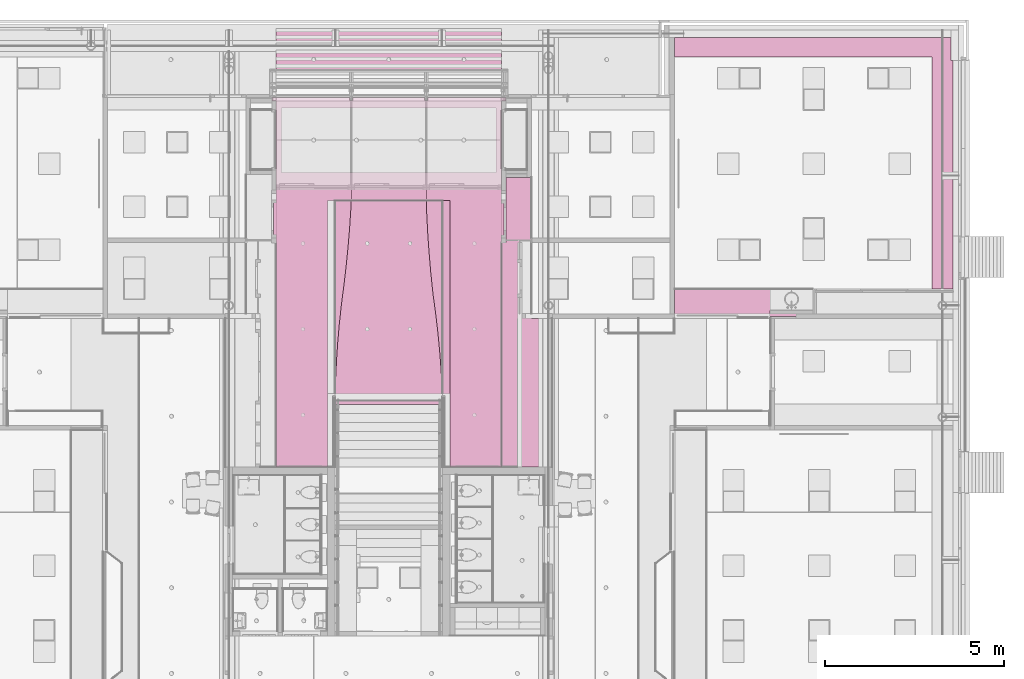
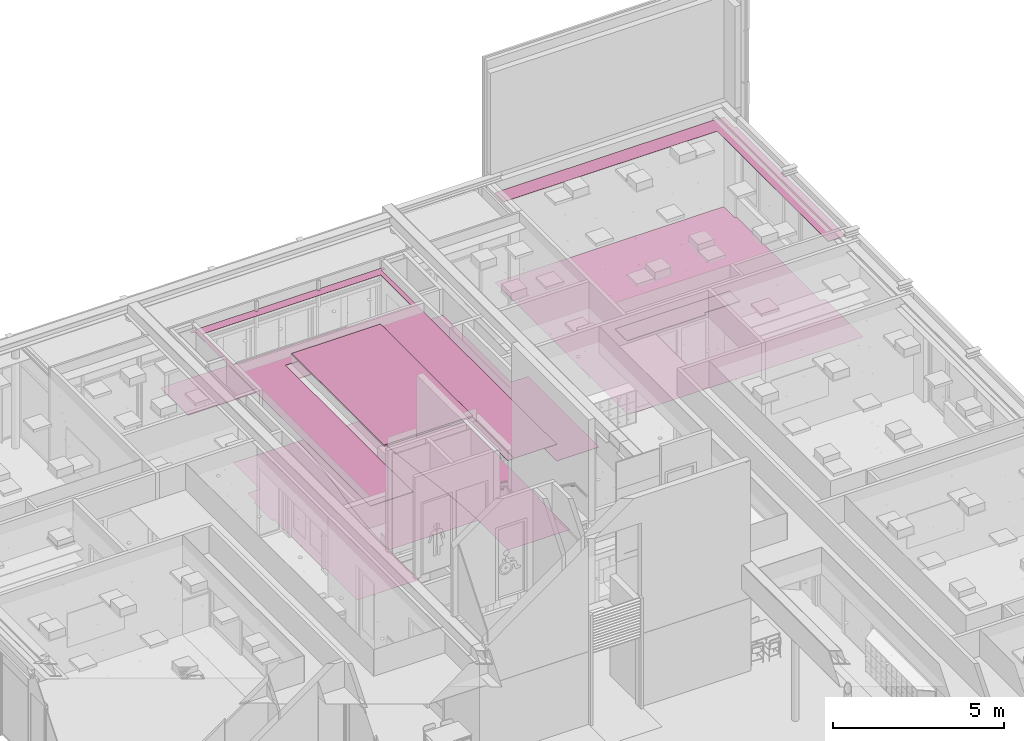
# One storey, part 327 of 347: 11 furnishings.
"""IFC2X3 building model written with IfcOpenShell, lengths in millimetres."""

from ifc_helpers import new_model, entity, si_unit, converted_unit, derived_unit, money_unit, direction, frame, origin_with_axes, place, context, subcontext, project, spatial, faceted_brep, material, type_object, element, save


model = new_model("IFC2X3")

# Units and contexts
model_context = context("Model", 3, precision=0.01, world=origin_with_axes(), true_north=direction((0.0, 1.0)))
plan_context = context("Plan", 3, precision=0.01, world=origin_with_axes(), true_north=direction((0.0, 1.0)))
body_context = subcontext(model_context, "Body", "Model", "MODEL_VIEW")
ifc_project = project(units=[si_unit("LENGTHUNIT", "METRE", prefix="MILLI"), si_unit("AREAUNIT", "SQUARE_METRE"), si_unit("VOLUMEUNIT", "CUBIC_METRE"), converted_unit("PLANEANGLEUNIT", "DEGREE", entity("IfcPlaneAngleMeasure", 0.0174532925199), si_unit("PLANEANGLEUNIT", "RADIAN"), dimensions=[0, 0, 0, 0, 0, 0, 0]), money_unit("EUR"), converted_unit("TIMEUNIT", "Year", entity("IfcTimeMeasure", 31556926.0), si_unit("TIMEUNIT", "SECOND"), dimensions=[0, 0, 1, 0, 0, 0, 0]), si_unit("MASSUNIT", "GRAM", prefix="KILO"), si_unit("THERMODYNAMICTEMPERATUREUNIT", "DEGREE_CELSIUS"), si_unit("LUMINOUSINTENSITYUNIT", "LUMEN"), si_unit("ENERGYUNIT", "JOULE", prefix="MEGA"), derived_unit("THERMALCONDUCTANCEUNIT", [(si_unit("POWERUNIT", "WATT"), 1), (si_unit("LENGTHUNIT", "METRE"), -1), (si_unit("THERMODYNAMICTEMPERATUREUNIT", "KELVIN"), -1)]), derived_unit("SPECIFICHEATCAPACITYUNIT", [(si_unit("ENERGYUNIT", "JOULE"), 1), (si_unit("MASSUNIT", "GRAM", prefix="KILO"), -1), (si_unit("THERMODYNAMICTEMPERATUREUNIT", "KELVIN"), -1)]), derived_unit("MASSDENSITYUNIT", [(si_unit("MASSUNIT", "GRAM", prefix="KILO"), 1), (si_unit("VOLUMEUNIT", "CUBIC_METRE"), -1)])], contexts=[model_context, plan_context])

# Site, building, storey
site_placement = place(None, origin_with_axes())
site = spatial("IfcSite", under=ifc_project, at=site_placement, Name="Site", CompositionType="ELEMENT")
building_placement = place(site_placement, origin_with_axes())
building = spatial("IfcBuilding", under=site, at=building_placement, Name="Naam gebouw", CompositionType="ELEMENT")
storey_placement = place(building_placement, origin_with_axes())
storey = spatial("IfcBuildingStorey", under=building, at=storey_placement, Name="begane grond", CompositionType="ELEMENT", Elevation=0.0)

# Furnishings
ifc_material_1 = material(Name="ALG - LICHTE SCHEIDINGSWAND")
furniture_type_1 = type_object("IfcFurnitureType", Name="44 koof plaf 50", AssemblyPlace="NOTDEFINED")
furnishing_1_placement = place(storey_placement, frame((43224.9999663, 34800.0000358, 2600.0), z_axis=(0.0, 0.0, 1.0), x_axis=(1.0, 0.0, 0.0)))
element("IfcFurnishingElement", 1, at=furnishing_1_placement, inside=storey, type_object=furniture_type_1, material=ifc_material_1, Name="72_75 vaste inrichting", ObjectType="SHELF", context=body_context, shape_type="Brep", body=[
    faceted_brep([(1429.99989195, 0.0, 12.0), (0.0, 0.0, 12.0), (0.0, 0.0, 0.0), (1429.99989195, 0.0, 0.0), (125.000013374, 6287.49998382, 12.0), (0.0, 6287.49998382, 12.0), (1429.99989195, 4162.49999818, 12.0), (850.000066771, 4162.49999818, 12.0), (850.000066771, 8110.49996423, 12.0), (125.000013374, 8110.49996423, 12.0), (0.0, 6287.49998382, 0.0), (1429.99989195, 4162.49999818, 0.0), (125.000013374, 6287.49998382, 0.0), (125.000013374, 8110.49996423, 0.0), (850.000066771, 8110.49996423, 0.0), (850.000066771, 4162.49999818, 0.0)], [[[0, 1, 2, 3]], [[4, 5, 1, 0, 6, 7, 8, 9]], [[1, 5, 10, 2]], [[11, 3, 2, 10, 12, 13, 14, 15]], [[6, 0, 3, 11]], [[5, 4, 12, 10]], [[7, 6, 11, 15]], [[8, 7, 15, 14]], [[9, 8, 14, 13]], [[4, 9, 13, 12]]]),
])
furnishing_2_placement = place(storey_placement, frame((36800.0, 45153.0, 3200.0), z_axis=(0.0, 0.0, 1.0), x_axis=(1.0, 0.0, 0.0)))
element("IfcFurnishingElement", 2, at=furnishing_2_placement, inside=storey, type_object=furniture_type_1, material=ifc_material_1, Name="72_75 vaste inrichting", ObjectType="SHELF", context=body_context, shape_type="Brep", body=[
    faceted_brep([(125.0, -100.0, 0.0), (0.0, -100.0, 0.0), (0.0, 0.0, 0.0), (6550.0, 0.0, 0.0), (6550.0, -100.0, 0.0), (6425.00000438, -100.0, 0.0), (6425.00000438, -10353.0, 0.0), (4984.99999897, -10353.0, 0.0), (4984.99999897, -2890.49990849, 0.0), (1565.00000541, -2890.49990849, 0.0), (1565.00000541, -10353.0, 0.0), (125.0, -10353.0, 0.0), (274.999926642, -300.000007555, 0.0), (274.999926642, -2100.00005288, 0.0), (6275.00007774, -2100.00005288, 0.0), (6275.00007774, -300.000007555, 0.0), (4285.0, -5.0, 0.0), (4285.0, -85.0, 0.0), (4365.0, -85.0, 0.0), (4365.0, -5.0, 0.0), (2185.0, -5.0, 0.0), (2185.0, -85.0, 0.0), (2265.0, -85.0, 0.0), (2265.0, -5.0, 0.0), (125.0, -100.0, 12.0), (0.0, -100.0, 12.0), (0.0, 0.0, 12.0), (6550.0, 0.0, 12.0), (6550.0, -100.0, 12.0), (6425.00000438, -100.0, 12.0), (6425.00000438, -10353.0, 12.0), (4984.99999897, -10353.0, 12.0), (4984.99999897, -2890.49990849, 12.0), (1565.00000541, -2890.49990849, 12.0), (1565.00000541, -10353.0, 12.0), (125.0, -10353.0, 12.0), (274.999926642, -300.000007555, 12.0), (274.999926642, -2100.00005288, 12.0), (6275.00007774, -2100.00005288, 12.0), (6275.00007774, -300.000007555, 12.0), (4285.0, -5.0, 12.0), (4285.0, -85.0, 12.0), (4365.0, -85.0, 12.0), (4365.0, -5.0, 12.0), (2185.0, -5.0, 12.0), (2185.0, -85.0, 12.0), (2265.0, -85.0, 12.0), (2265.0, -5.0, 12.0)], [[[0, 1, 2, 3, 4, 5, 6, 7, 8, 9, 10, 11], [12, 13, 14, 15], [16, 17, 18, 19], [20, 21, 22, 23]], [[24, 25, 1, 0]], [[25, 26, 2, 1]], [[26, 27, 3, 2]], [[27, 28, 4, 3]], [[28, 29, 5, 4]], [[29, 30, 6, 5]], [[30, 31, 7, 6]], [[31, 32, 8, 7]], [[32, 33, 9, 8]], [[33, 34, 10, 9]], [[34, 35, 11, 10]], [[35, 24, 0, 11]], [[36, 37, 13, 12]], [[37, 38, 14, 13]], [[38, 39, 15, 14]], [[39, 36, 12, 15]], [[16, 40, 41, 17]], [[17, 41, 42, 18]], [[18, 42, 43, 19]], [[19, 43, 40, 16]], [[20, 44, 45, 21]], [[21, 45, 46, 22]], [[22, 46, 47, 23]], [[23, 47, 44, 20]], [[28, 27, 26, 25, 24, 35, 34, 33, 32, 31, 30, 29], [36, 39, 38, 37], [42, 41, 40, 43], [46, 45, 44, 47]]]),
])
furnishing_3_placement = place(storey_placement, frame((41575.0000316, 42262.5000383, 3190.0), z_axis=(0.0, 0.0, 1.0), x_axis=(1.0, 0.0, 0.0)))
element("IfcFurnishingElement", 3, at=furnishing_3_placement, inside=storey, type_object=furniture_type_1, material=ifc_material_1, Name="72_75 vaste inrichting", ObjectType="SHELF", context=body_context, shape_type="Brep", body=[
    faceted_brep([(0.0, 0.0, 12.0), (0.0, 0.0, 0.0), (0.0, -7462.50003829, 0.0), (0.0, -7462.50003829, 12.0), (209.000107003, 0.0, 12.0), (209.000107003, 0.0, 0.0), (209.000107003, -7462.50003829, 0.0), (209.000107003, -7462.50003829, 12.0)], [[[0, 1, 2, 3]], [[4, 5, 1, 0]], [[2, 1, 5, 6]], [[3, 2, 6, 7]], [[4, 0, 3, 7]], [[7, 6, 5, 4]]]),
])
furnishing_4_placement = place(storey_placement, frame((56025.0, 45210.0068337, 3200.0), z_axis=(0.0, 0.0, 1.0), x_axis=(1.0, 0.0, 0.0)))
element("IfcFurnishingElement", 4, at=furnishing_4_placement, inside=storey, type_object=furniture_type_1, material=ifc_material_1, Name="72_75 vaste inrichting", ObjectType="SHELF", context=body_context, shape_type="Brep", body=[
    faceted_brep([(-150.000026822, -5422.50683374, 12.0), (-149.999943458, 0.0, 12.0), (-149.999943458, 976.99318817, 12.0), (-209.999917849, 976.99318817, 12.0), (-209.999917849, 1616.99321597, 12.0), (-7950.0, 1616.99321597, 12.0), (-7950.0, 1076.99311789, 12.0), (-750.000015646, 1076.99311789, 12.0), (-750.000015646, -5422.50683374, 12.0), (-150.000026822, -5422.50683374, 0.0), (-149.999943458, 0.0, 0.0), (-149.999943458, 976.99318817, 0.0), (-209.999917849, 976.99318817, 0.0), (-209.999917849, 1616.99321597, 0.0), (-7950.0, 1616.99321597, 0.0), (-7950.0, 1076.99311789, 0.0), (-750.000015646, 1076.99311789, 0.0), (-750.000015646, -5422.50683374, 0.0)], [[[0, 1, 2, 3, 4, 5, 6, 7, 8]], [[9, 10, 1, 0]], [[10, 11, 2, 1]], [[3, 2, 11, 12]], [[12, 13, 4, 3]], [[5, 4, 13, 14]], [[6, 5, 14, 15]], [[7, 6, 15, 16]], [[8, 7, 16, 17]], [[0, 8, 17, 9]], [[12, 11, 10, 9, 17, 16, 15, 14, 13]]]),
])
furnishing_5_placement = place(storey_placement, frame((51950.0, 39187.5, 2600.0), z_axis=(0.0, 0.0, 1.0), x_axis=(1.0, 0.0, 0.0)))
element("IfcFurnishingElement", 5, at=furnishing_5_placement, inside=storey, type_object=furniture_type_1, material=ifc_material_1, Name="72_75 vaste inrichting", ObjectType="SHELF", context=body_context, shape_type="Brep", body=[
    faceted_brep([(0.0, 0.0, 12.0), (0.0, 0.0, 0.0), (0.0, 600.0, 0.0), (0.0, 600.0, 12.0), (-1200.0, 0.0, 12.0), (-1200.0, 0.0, 0.0), (-1200.0, -100.0, 0.0), (-3875.0, -100.0, 0.0), (-3875.0, 600.0, 0.0), (-3875.0, 600.0, 12.0), (-3875.0, -100.0, 12.0), (-1200.0, -100.0, 12.0)], [[[0, 1, 2, 3]], [[4, 5, 1, 0]], [[2, 1, 5, 6, 7, 8]], [[3, 2, 8, 9]], [[4, 0, 3, 9, 10, 11]], [[11, 6, 5, 4]], [[10, 7, 6, 11]], [[9, 8, 7, 10]]]),
])
ifc_material_2 = material(Name="43 fresco Barbados 3858")
furniture_type_2 = type_object("IfcFurnitureType", Name="43 fresco Barbados 3858 2", AssemblyPlace="NOTDEFINED")
furnishing_6_placement = place(storey_placement, frame((48075.0, 39022.5000001, 0.0), z_axis=(0.0, 0.0, 1.0), x_axis=(1.0, 0.0, 0.0)))
element("IfcFurnishingElement", 6, at=furnishing_6_placement, inside=storey, type_object=furniture_type_2, material=ifc_material_2, Name="72_43 marmoleum", ObjectType="SHELF", context=body_context, shape_type="Brep", body=[
    faceted_brep([(0.0, 0.0, 2.0), (0.0, 0.0, 0.0), (7950.0, -2.92999402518e-07, 0.0), (7950.0, -2.92999402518e-07, 2.0), (0.0, 7804.50004926, 2.0), (0.0, 7804.50004926, 0.0), (7740.00000027, 7804.50004926, 0.0), (7740.00000027, 7164.9999554, 0.0), (7800.00005433, 7164.9999554, 0.0), (7800.00008053, 2251.50001872, 0.0), (7950.0, 2251.50001843, 0.0), (7950.0, 2251.50001843, 2.0), (7800.00008053, 2251.50001872, 2.0), (7800.00005433, 7164.9999554, 2.0), (7740.00000027, 7164.9999554, 2.0), (7740.00000027, 7804.50004926, 2.0)], [[[0, 1, 2, 3]], [[4, 5, 1, 0]], [[2, 1, 5, 6, 7, 8, 9, 10]], [[3, 2, 10, 11]], [[4, 0, 3, 11, 12, 13, 14, 15]], [[15, 6, 5, 4]], [[14, 7, 6, 15]], [[13, 8, 7, 14]], [[12, 9, 8, 13]], [[11, 10, 9, 12]]]),
])
ifc_material_3 = material(Name="48 plafond Sonar G")
furniture_type_3 = type_object("IfcFurnitureType", Name="48 plafond Sonar G 60", AssemblyPlace="NOTDEFINED")
furnishing_7_placement = place(storey_placement, frame((38575.0, 36862.4999592, 3560.0), z_axis=(0.0, 0.0, 1.0), x_axis=(1.0, 0.0, 0.0)))
element("IfcFurnishingElement", 7, at=furnishing_7_placement, inside=storey, type_object=furniture_type_3, material=ifc_material_3, Name="72_75 vaste inrichting", ObjectType="SHELF", context=body_context, shape_type="Brep", body=[
    faceted_brep([(0.0, 0.0, 0.0), (0.0, 0.0, -60.0), (2999.9999749, 0.0, -60.0), (2999.9999749, 0.0, 0.0), (0.0, 5400.0000075, 0.0), (0.0, 5400.0000075, -60.0), (2999.9999749, 5400.0000075, -60.0), (2999.9999749, 5400.0000075, 0.0)], [[[0, 1, 2, 3]], [[4, 5, 1, 0]], [[1, 5, 6, 2]], [[3, 2, 6, 7]], [[4, 0, 3, 7]], [[7, 6, 5, 4]]]),
])
ifc_material_4 = material(Name="43 fresco Arabian pearl 3861")
furniture_type_4 = type_object("IfcFurnitureType", Name="43 fresco Arabian pearl 3861 2", AssemblyPlace="NOTDEFINED")
furnishing_8_placement = place(storey_placement, frame((43303.0, 42687.5, 0.0), z_axis=(0.0, 0.0, 1.0), x_axis=(1.0, 0.0, 0.0)))
element("IfcFurnishingElement", 8, at=furnishing_8_placement, inside=storey, type_object=furniture_type_4, material=ifc_material_4, Name="72_76 vaste inrichting", ObjectType="SHELF", context=body_context, shape_type="Brep", body=[
    faceted_brep([(0.0, 0.0, 2.0), (0.0, 0.0, 0.0), (-2178.0, 0.0, 0.0), (-2178.0, 0.0, 2.0), (0.0, -1543.35949123, 2.0), (0.0, -1543.35949123, 0.0), (450.0, -1543.35949123, 0.0), (450.0, -3725.00000487, 0.0), (414.999982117, -3725.00000539, 0.0), (415.000016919, -6027.99993748, 0.0), (372.00008563, -6027.99993748, 0.0), (372.00008563, -7887.49998588, 0.0), (-1728.00000185, -7887.49996359, 0.0), (-1728.00000092, -5887.5, 0.0), (-1737.77503493, -5630.37737687, 0.0), (-1767.35521076, -5116.61148499, 0.0), (-1806.9542319, -4603.52056129, 0.0), (-1856.55702123, -4091.29996258, 0.0), (-1916.14469272, -3580.14471428, 0.0), (-1978.00001196, -3131.99998207, 0.0), (-1998.11669432, -2966.69141634, 0.0), (-2055.85565284, -2403.25571626, 0.0), (-2103.6137762, -1838.88638939, 0.0), (-2141.37610414, -1273.76022467, 0.0), (-2169.1308076, -708.054248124, 0.0), (-2178.0, -424.999957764, 0.0), (-2178.0, -424.999957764, 2.0), (-2169.1308076, -708.054248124, 2.0), (-2141.37610414, -1273.76022467, 2.0), (-2103.6137762, -1838.88638939, 2.0), (-2055.85565284, -2403.25571626, 2.0), (-1998.11669432, -2966.69141634, 2.0), (-1978.00001196, -3131.99998207, 2.0), (-1916.14469272, -3580.14471428, 2.0), (-1856.55702123, -4091.29996258, 2.0), (-1806.9542319, -4603.52056129, 2.0), (-1767.35521076, -5116.61148499, 2.0), (-1737.77503493, -5630.37737687, 2.0), (-1728.00000092, -5887.5, 2.0), (-1728.00000185, -7887.49996359, 2.0), (372.00008563, -7887.49998588, 2.0), (372.00008563, -6027.99993748, 2.0), (415.000016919, -6027.99993748, 2.0), (414.999982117, -3725.00000539, 2.0), (450.0, -3725.00000487, 2.0), (450.0, -1543.35949123, 2.0)], [[[0, 1, 2, 3]], [[4, 5, 1, 0]], [[2, 1, 5, 6, 7, 8, 9, 10, 11, 12, 13, 14, 15, 16, 17, 18, 19, 20, 21, 22, 23, 24, 25]], [[3, 2, 25, 26]], [[4, 0, 3, 26, 27, 28, 29, 30, 31, 32, 33, 34, 35, 36, 37, 38, 39, 40, 41, 42, 43, 44, 45]], [[45, 6, 5, 4]], [[44, 7, 6, 45]], [[43, 8, 7, 44]], [[42, 9, 8, 43]], [[41, 10, 9, 42]], [[40, 11, 10, 41]], [[39, 12, 11, 40]], [[38, 13, 12, 39]], [[37, 14, 13, 38]], [[36, 15, 14, 37]], [[35, 16, 15, 36]], [[34, 17, 16, 35]], [[33, 18, 17, 34]], [[32, 19, 18, 33]], [[31, 20, 19, 32]], [[30, 21, 20, 31]], [[29, 22, 21, 30]], [[28, 23, 22, 29]], [[27, 24, 23, 28]], [[26, 25, 24, 27]]]),
])
furnishing_9_placement = place(storey_placement, frame((36350.0, 39561.6133291, 0.0), z_axis=(0.0, 0.0, 1.0), x_axis=(1.0, 0.0, 0.0)))
element("IfcFurnishingElement", 9, at=furnishing_9_placement, inside=storey, type_object=furniture_type_4, material=ifc_material_4, Name="72_76 vaste inrichting", ObjectType="SHELF", context=body_context, shape_type="Brep", body=[
    faceted_brep([(0.0, 0.0, 2.0), (0.0, 0.0, 0.0), (75.5, 0.0, 0.0), (75.5, 0.0, 2.0), (0.0, 1057.88668879, 2.0), (0.0, 1057.88668879, 0.0), (75.5, 1057.88668879, 0.0), (75.5, 1575.88667086, 0.0), (497.0, 1575.88667086, 0.0), (497.0, 3125.88671658, 0.0), (2675.0, 3125.8866697, 0.0), (2675.0, 2700.8867131, 0.0), (2667.33475634, 2530.38572095, 0.0), (2631.23221787, 1965.15109517, 0.0), (2585.13170446, 1400.64394896, 0.0), (2529.0476571, 837.041114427, 0.0), (2462.99764416, 274.51914041, 0.0), (2425.0, -6.11331121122, 0.0), (2392.95043887, -261.497204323, 0.0), (2338.82949757, -773.418441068, 0.0), (2294.70734351, -1286.29821688, 0.0), (2260.60077597, -1799.94125535, 0.0), (2236.52278087, -2314.15198946, 0.0), (2225.00000185, -2761.61332914, 0.0), (2224.9999875, -4761.61334894, 0.0), (125.000002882, -4761.61334894, 0.0), (125.000002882, -2902.11337262, 0.0), (82.0, -2902.11337262, 0.0), (82.0, -599.113329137, 0.0), (75.5, -599.113329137, 0.0), (75.5, -599.113329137, 2.0), (82.0, -599.113329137, 2.0), (82.0, -2902.11337262, 2.0), (125.000002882, -2902.11337262, 2.0), (125.000002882, -4761.61334894, 2.0), (2224.9999875, -4761.61334894, 2.0), (2225.00000185, -2761.61332914, 2.0), (2236.52278087, -2314.15198946, 2.0), (2260.60077597, -1799.94125535, 2.0), (2294.70734351, -1286.29821688, 2.0), (2338.82949757, -773.418441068, 2.0), (2392.95043887, -261.497204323, 2.0), (2425.0, -6.11331121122, 2.0), (2462.99764416, 274.51914041, 2.0), (2529.0476571, 837.041114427, 2.0), (2585.13170446, 1400.64394896, 2.0), (2631.23221787, 1965.15109517, 2.0), (2667.33475634, 2530.38572095, 2.0), (2675.0, 2700.8867131, 2.0), (2675.0, 3125.8866697, 2.0), (497.0, 3125.88671658, 2.0), (497.0, 1575.88667086, 2.0), (75.5, 1575.88667086, 2.0), (75.5, 1057.88668879, 2.0)], [[[0, 1, 2, 3]], [[4, 5, 1, 0]], [[2, 1, 5, 6, 7, 8, 9, 10, 11, 12, 13, 14, 15, 16, 17, 18, 19, 20, 21, 22, 23, 24, 25, 26, 27, 28, 29]], [[3, 2, 29, 30]], [[4, 0, 3, 30, 31, 32, 33, 34, 35, 36, 37, 38, 39, 40, 41, 42, 43, 44, 45, 46, 47, 48, 49, 50, 51, 52, 53]], [[53, 6, 5, 4]], [[52, 7, 6, 53]], [[51, 8, 7, 52]], [[50, 9, 8, 51]], [[49, 10, 9, 50]], [[48, 11, 10, 49]], [[47, 12, 11, 48]], [[46, 13, 12, 47]], [[45, 14, 13, 46]], [[44, 15, 14, 45]], [[43, 16, 15, 44]], [[42, 17, 16, 43]], [[41, 18, 17, 42]], [[40, 19, 18, 41]], [[39, 20, 19, 40]], [[38, 21, 20, 39]], [[37, 22, 21, 38]], [[36, 23, 22, 37]], [[35, 24, 23, 36]], [[34, 25, 24, 35]], [[33, 26, 25, 34]], [[32, 27, 26, 33]], [[31, 28, 27, 32]], [[30, 29, 28, 31]]]),
])
ifc_material_5 = material(Name="Metaal - Aluminium")
furniture_type_5 = type_object("IfcFurnitureType", Name="Metaal - Aluminium 25", AssemblyPlace="NOTDEFINED")
furnishing_10_placement = place(storey_placement, frame((36925.0, 45480.0, -15.0), z_axis=(0.0, 0.0, 1.0), x_axis=(1.0, 0.0, 0.0)))
element("IfcFurnishingElement", 10, at=furnishing_10_placement, inside=storey, type_object=furniture_type_5, material=ifc_material_5, Name="72_43 schoonloop zone 1", ObjectType="SHELF", context=body_context, shape_type="Brep", body=[
    faceted_brep([(0.0, 0.0, 0.0), (0.0, 0.0, -25.0), (6300.0, 0.0, -25.0), (6300.0, 0.0, 0.0), (0.0, 1600.0, 0.0), (0.0, 1600.0, -25.0), (6300.0, 1600.0, -25.0), (6300.0, 1600.0, 0.0)], [[[0, 1, 2, 3]], [[4, 5, 1, 0]], [[2, 1, 5, 6]], [[3, 2, 6, 7]], [[4, 0, 3, 7]], [[7, 6, 5, 4]]]),
])
ifc_material_6 = material(Name="43 Fresco Moonstone 3883")
furniture_type_6 = type_object("IfcFurnitureType", Name="43 Fresco Moonstone 3883 2", AssemblyPlace="NOTDEFINED")
furnishing_11_placement = place(storey_placement, frame((38575.0000018, 36550.0, 0.0), z_axis=(0.0, 0.0, 1.0), x_axis=(1.0, 0.0, 0.0)))
element("IfcFurnishingElement", 11, at=furnishing_11_placement, inside=storey, type_object=furniture_type_6, material=ifc_material_6, Name="72_76 vaste inrichting", ObjectType="SHELF", context=body_context, shape_type="Brep", body=[
    faceted_brep([(0.0, 0.0, 2.0), (0.0, 0.0, 0.0), (2999.99999815, 0.0, 0.0), (2999.99999815, 0.0, 2.0), (0.0, 250.0, 2.0), (0.0, 250.0, 0.0), (11.5227790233, 697.461339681, 0.0), (35.6007741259, 1211.67207379, 0.0), (69.7073416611, 1725.31511226, 0.0), (113.829495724, 2238.19488807, 0.0), (167.950437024, 2750.11612481, 0.0), (199.999998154, 3005.50001793, 0.0), (237.997642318, 3286.13246955, 0.0), (304.047655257, 3848.65444356, 0.0), (360.13170261, 4412.2572781, 0.0), (406.232216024, 4976.76442431, 0.0), (442.334754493, 5541.99905008, 0.0), (449.999998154, 5712.50004224, 0.0), (449.999998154, 6137.5, 0.0), (2549.99999815, 6137.5, 0.0), (2549.99999815, 5712.50004224, 0.0), (2558.86919056, 5429.44575188, 0.0), (2586.62389402, 4863.73977533, 0.0), (2624.38622196, 4298.61361061, 0.0), (2672.14434531, 3734.24428374, 0.0), (2729.88330383, 3170.80858366, 0.0), (2749.99998619, 3005.50001793, 0.0), (2811.85530543, 2557.35528572, 0.0), (2871.44297693, 2046.20003742, 0.0), (2921.04576625, 1533.97943871, 0.0), (2960.6447874, 1020.88851501, 0.0), (2990.22496323, 507.122623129, 0.0), (2999.99999723, 250.0, 0.0), (2999.99999723, 250.0, 2.0), (2990.22496323, 507.122623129, 2.0), (2960.6447874, 1020.88851501, 2.0), (2921.04576625, 1533.97943871, 2.0), (2871.44297693, 2046.20003742, 2.0), (2811.85530543, 2557.35528572, 2.0), (2749.99998619, 3005.50001793, 2.0), (2729.88330383, 3170.80858366, 2.0), (2672.14434531, 3734.24428374, 2.0), (2624.38622196, 4298.61361061, 2.0), (2586.62389402, 4863.73977533, 2.0), (2558.86919056, 5429.44575188, 2.0), (2549.99999815, 5712.50004224, 2.0), (2549.99999815, 6137.5, 2.0), (449.999998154, 6137.5, 2.0), (449.999998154, 5712.50004224, 2.0), (442.334754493, 5541.99905008, 2.0), (406.232216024, 4976.76442431, 2.0), (360.13170261, 4412.2572781, 2.0), (304.047655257, 3848.65444356, 2.0), (237.997642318, 3286.13246955, 2.0), (199.999998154, 3005.50001793, 2.0), (167.950437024, 2750.11612481, 2.0), (113.829495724, 2238.19488807, 2.0), (69.7073416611, 1725.31511226, 2.0), (35.6007741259, 1211.67207379, 2.0), (11.5227790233, 697.461339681, 2.0)], [[[0, 1, 2, 3]], [[4, 5, 1, 0]], [[2, 1, 5, 6, 7, 8, 9, 10, 11, 12, 13, 14, 15, 16, 17, 18, 19, 20, 21, 22, 23, 24, 25, 26, 27, 28, 29, 30, 31, 32]], [[3, 2, 32, 33]], [[4, 0, 3, 33, 34, 35, 36, 37, 38, 39, 40, 41, 42, 43, 44, 45, 46, 47, 48, 49, 50, 51, 52, 53, 54, 55, 56, 57, 58, 59]], [[59, 6, 5, 4]], [[58, 7, 6, 59]], [[57, 8, 7, 58]], [[56, 9, 8, 57]], [[55, 10, 9, 56]], [[54, 11, 10, 55]], [[53, 12, 11, 54]], [[52, 13, 12, 53]], [[51, 14, 13, 52]], [[50, 15, 14, 51]], [[49, 16, 15, 50]], [[48, 17, 16, 49]], [[47, 18, 17, 48]], [[46, 19, 18, 47]], [[45, 20, 19, 46]], [[44, 21, 20, 45]], [[43, 22, 21, 44]], [[42, 23, 22, 43]], [[41, 24, 23, 42]], [[40, 25, 24, 41]], [[39, 26, 25, 40]], [[38, 27, 26, 39]], [[37, 28, 27, 38]], [[36, 29, 28, 37]], [[35, 30, 29, 36]], [[34, 31, 30, 35]], [[33, 32, 31, 34]]]),
])

save(model, "model.ifc")
